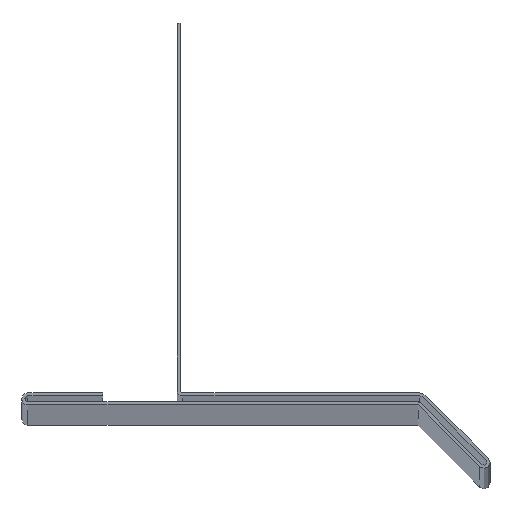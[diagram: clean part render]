
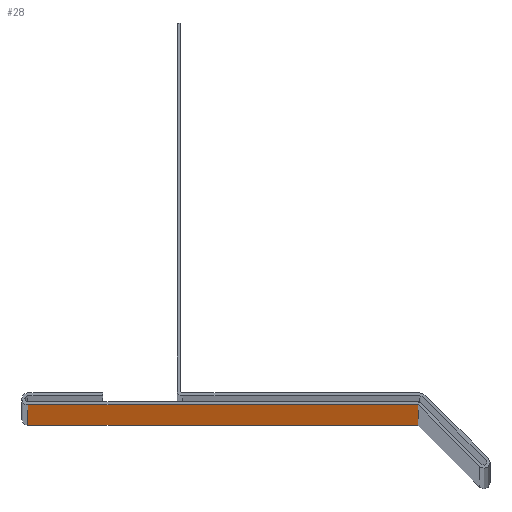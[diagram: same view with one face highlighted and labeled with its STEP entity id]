
A CAD part, top view. The second image highlights one B-rep face of the part: STEP entity #28.
In plain terms, the highlighted planar face has unit normal (0, -1, 0).
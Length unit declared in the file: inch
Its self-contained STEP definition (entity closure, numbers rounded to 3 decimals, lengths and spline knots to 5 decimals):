
#1 = EDGE_CURVE ( 'NONE', #1027, #167, #1031, .T. ) ;
#23 = FACE_OUTER_BOUND ( 'NONE', #676, .T. ) ;
#28 = ADVANCED_FACE ( 'NONE', ( #23 ), #215, .T. ) ;
#40 = CARTESIAN_POINT ( 'NONE',  ( 1.61672, -0.06, 78.74016 ) ) ;
#92 = CARTESIAN_POINT ( 'NONE',  ( 1.61672, -0.06, 78.74016 ) ) ;
#94 = ORIENTED_EDGE ( 'NONE', *, *, #219, .F. ) ;
#105 = LINE ( 'NONE', #486, #597 ) ;
#161 = ORIENTED_EDGE ( 'NONE', *, *, #1, .T. ) ;
#167 = VERTEX_POINT ( 'NONE', #569 ) ;
#198 = VECTOR ( 'NONE', #861, 39.37008 ) ;
#202 = DIRECTION ( 'NONE',  ( -1., 0., 0. ) ) ;
#213 = CARTESIAN_POINT ( 'NONE',  ( -1., -0.06, 78.74016 ) ) ;
#215 = PLANE ( 'NONE',  #277 ) ;
#216 = LINE ( 'NONE', #40, #912 ) ;
#219 = EDGE_CURVE ( 'NONE', #314, #773, #437, .T. ) ;
#274 = ORIENTED_EDGE ( 'NONE', *, *, #831, .F. ) ;
#277 = AXIS2_PLACEMENT_3D ( 'NONE', #280, #680, #448 ) ;
#280 = CARTESIAN_POINT ( 'NONE',  ( 1.61672, -0.06, 78.74016 ) ) ;
#305 = DIRECTION ( 'NONE',  ( 0., 0., -1. ) ) ;
#314 = VERTEX_POINT ( 'NONE', #453 ) ;
#353 = ORIENTED_EDGE ( 'NONE', *, *, #410, .T. ) ;
#410 = EDGE_CURVE ( 'NONE', #314, #1027, #216, .T. ) ;
#437 = LINE ( 'NONE', #92, #505 ) ;
#448 = DIRECTION ( 'NONE',  ( 1., 0., 0. ) ) ;
#453 = CARTESIAN_POINT ( 'NONE',  ( 1.61672, -0.06, 78.74016 ) ) ;
#462 = CARTESIAN_POINT ( 'NONE',  ( -1., -0.06, 78.74016 ) ) ;
#486 = CARTESIAN_POINT ( 'NONE',  ( 1.61672, -0.06, 0. ) ) ;
#505 = VECTOR ( 'NONE', #305, 39.37008 ) ;
#515 = DIRECTION ( 'NONE',  ( -1., 0., 0. ) ) ;
#569 = CARTESIAN_POINT ( 'NONE',  ( -1., -0.06, 0. ) ) ;
#597 = VECTOR ( 'NONE', #515, 39.37008 ) ;
#676 = EDGE_LOOP ( 'NONE', ( #274, #94, #353, #161 ) ) ;
#680 = DIRECTION ( 'NONE',  ( 0., -1., 0. ) ) ;
#773 = VERTEX_POINT ( 'NONE', #828 ) ;
#828 = CARTESIAN_POINT ( 'NONE',  ( 1.61672, -0.06, 0. ) ) ;
#831 = EDGE_CURVE ( 'NONE', #773, #167, #105, .T. ) ;
#861 = DIRECTION ( 'NONE',  ( 0., 0., -1. ) ) ;
#912 = VECTOR ( 'NONE', #202, 39.37008 ) ;
#1027 = VERTEX_POINT ( 'NONE', #462 ) ;
#1031 = LINE ( 'NONE', #213, #198 ) ;
